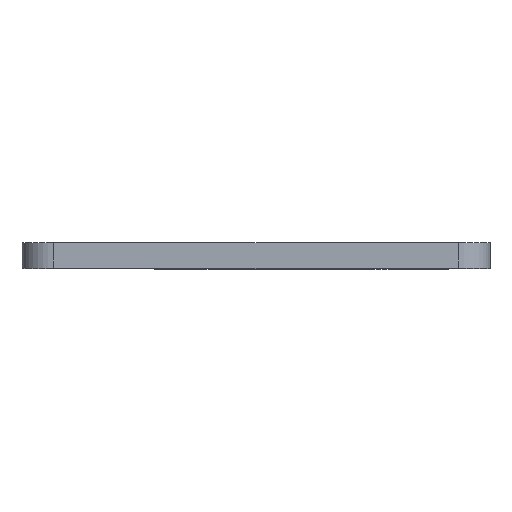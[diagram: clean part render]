
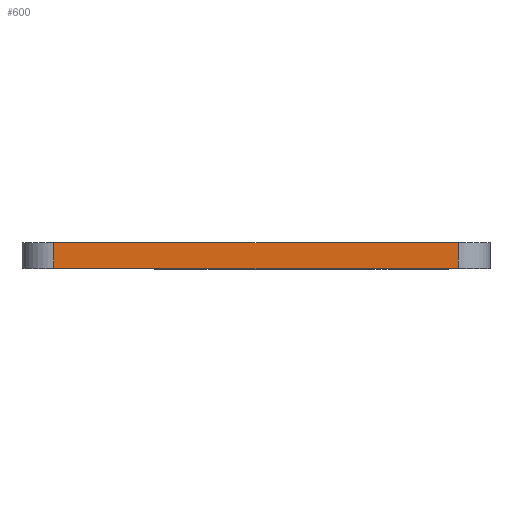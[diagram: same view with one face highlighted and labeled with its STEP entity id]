
A CAD part, top view. The second image highlights one B-rep face of the part: STEP entity #600.
In plain terms, the highlighted planar face has unit normal (0, 0, 1).
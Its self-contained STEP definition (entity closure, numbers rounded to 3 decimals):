
#5 = ORIENTED_EDGE ( 'NONE', *, *, #53, .T. ) ;
#47 = PLANE ( 'NONE',  #223 ) ;
#53 = EDGE_CURVE ( 'NONE', #248, #722, #244, .T. ) ;
#65 = DIRECTION ( 'NONE',  ( 1., 0., 0. ) ) ;
#119 = LINE ( 'NONE', #442, #380 ) ;
#123 = ORIENTED_EDGE ( 'NONE', *, *, #149, .F. ) ;
#128 = ORIENTED_EDGE ( 'NONE', *, *, #386, .T. ) ;
#149 = EDGE_CURVE ( 'NONE', #366, #414, #620, .T. ) ;
#169 = VECTOR ( 'NONE', #597, 1000. ) ;
#212 = CARTESIAN_POINT ( 'NONE',  ( 31.321, 2., 8.5 ) ) ;
#223 = AXIS2_PLACEMENT_3D ( 'NONE', #401, #522, #65 ) ;
#226 = LINE ( 'NONE', #489, #466 ) ;
#244 = LINE ( 'NONE', #376, #633 ) ;
#248 = VERTEX_POINT ( 'NONE', #673 ) ;
#264 = CARTESIAN_POINT ( 'NONE',  ( 63.321, 2., 8.5 ) ) ;
#345 = ORIENTED_EDGE ( 'NONE', *, *, #519, .T. ) ;
#359 = CARTESIAN_POINT ( 'NONE',  ( 28.821, 2., 8.5 ) ) ;
#366 = VERTEX_POINT ( 'NONE', #212 ) ;
#376 = CARTESIAN_POINT ( 'NONE',  ( 28.821, 0., 8.5 ) ) ;
#380 = VECTOR ( 'NONE', #455, 1000. ) ;
#386 = EDGE_CURVE ( 'NONE', #366, #248, #226, .T. ) ;
#401 = CARTESIAN_POINT ( 'NONE',  ( 28.821, 0., 8.5 ) ) ;
#406 = FACE_OUTER_BOUND ( 'NONE', #736, .T. ) ;
#414 = VERTEX_POINT ( 'NONE', #264 ) ;
#427 = DIRECTION ( 'NONE',  ( 0., -1., 0. ) ) ;
#429 = DIRECTION ( 'NONE',  ( 1., 0., 0. ) ) ;
#442 = CARTESIAN_POINT ( 'NONE',  ( 63.321, 0., 8.5 ) ) ;
#455 = DIRECTION ( 'NONE',  ( 0., 1., 0. ) ) ;
#466 = VECTOR ( 'NONE', #427, 1000. ) ;
#489 = CARTESIAN_POINT ( 'NONE',  ( 31.321, 0., 8.5 ) ) ;
#517 = CARTESIAN_POINT ( 'NONE',  ( 63.321, 0., 8.5 ) ) ;
#519 = EDGE_CURVE ( 'NONE', #722, #414, #119, .T. ) ;
#522 = DIRECTION ( 'NONE',  ( 0., 0., 1. ) ) ;
#597 = DIRECTION ( 'NONE',  ( 1., 0., 0. ) ) ;
#600 = ADVANCED_FACE ( 'NONE', ( #406 ), #47, .T. ) ;
#620 = LINE ( 'NONE', #359, #169 ) ;
#633 = VECTOR ( 'NONE', #429, 1000. ) ;
#673 = CARTESIAN_POINT ( 'NONE',  ( 31.321, 0., 8.5 ) ) ;
#722 = VERTEX_POINT ( 'NONE', #517 ) ;
#736 = EDGE_LOOP ( 'NONE', ( #123, #128, #5, #345 ) ) ;
